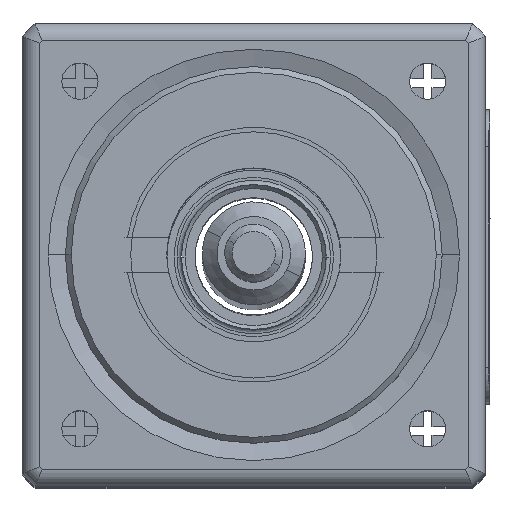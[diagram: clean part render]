
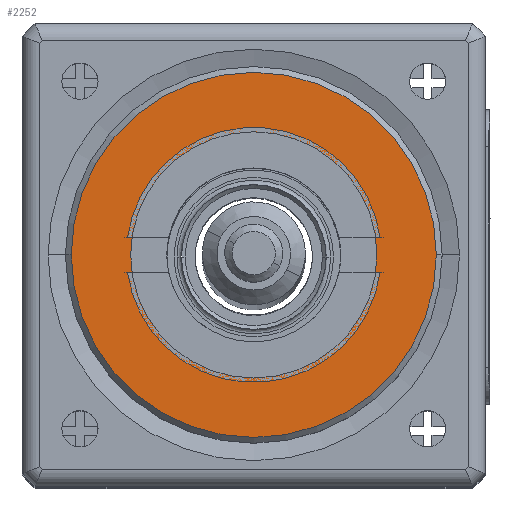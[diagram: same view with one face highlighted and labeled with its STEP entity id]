
A CAD part, top view. The second image highlights one B-rep face of the part: STEP entity #2252.
In plain terms, the highlighted planar face has unit normal (0, 0, 1).
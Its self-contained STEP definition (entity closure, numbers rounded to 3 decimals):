
#101 = VERTEX_POINT ( 'NONE', #7551 ) ;
#591 = PLANE ( 'NONE',  #3336 ) ;
#687 = DIRECTION ( 'NONE',  ( 1., 0., 0. ) ) ;
#738 = VERTEX_POINT ( 'NONE', #9557 ) ;
#1841 = ORIENTED_EDGE ( 'NONE', *, *, #7918, .F. ) ;
#2022 = CIRCLE ( 'NONE', #8826, 6.3 ) ;
#2171 = ORIENTED_EDGE ( 'NONE', *, *, #8044, .F. ) ;
#2252 = ADVANCED_FACE ( 'NONE', ( #9437, #2463 ), #591, .T. ) ;
#2326 = EDGE_LOOP ( 'NONE', ( #7485, #2599 ) ) ;
#2344 = CARTESIAN_POINT ( 'NONE',  ( 5.997, 10.347, 45.902 ) ) ;
#2463 = FACE_BOUND ( 'NONE', #12154, .T. ) ;
#2599 = ORIENTED_EDGE ( 'NONE', *, *, #4922, .T. ) ;
#2786 = CARTESIAN_POINT ( 'NONE',  ( 10.247, 10.347, 45.902 ) ) ;
#3108 = VERTEX_POINT ( 'NONE', #2344 ) ;
#3336 = AXIS2_PLACEMENT_3D ( 'NONE', #5433, #9312, #8287 ) ;
#4442 = CARTESIAN_POINT ( 'NONE',  ( 10.247, 10.347, 45.902 ) ) ;
#4610 = DIRECTION ( 'NONE',  ( 1., 0., 0. ) ) ;
#4777 = DIRECTION ( 'NONE',  ( 1., 0., 0. ) ) ;
#4922 = EDGE_CURVE ( 'NONE', #101, #738, #2022, .T. ) ;
#5433 = CARTESIAN_POINT ( 'NONE',  ( 10.247, 10.347, 45.902 ) ) ;
#6006 = CARTESIAN_POINT ( 'NONE',  ( 10.247, 10.347, 45.902 ) ) ;
#6140 = AXIS2_PLACEMENT_3D ( 'NONE', #9668, #8634, #687 ) ;
#6678 = DIRECTION ( 'NONE',  ( 0., 0., 1. ) ) ;
#7178 = CIRCLE ( 'NONE', #6140, 4.25 ) ;
#7241 = CARTESIAN_POINT ( 'NONE',  ( 14.497, 10.347, 45.902 ) ) ;
#7485 = ORIENTED_EDGE ( 'NONE', *, *, #11486, .T. ) ;
#7551 = CARTESIAN_POINT ( 'NONE',  ( 16.547, 10.347, 45.902 ) ) ;
#7738 = DIRECTION ( 'NONE',  ( 0., 0., 1. ) ) ;
#7799 = CIRCLE ( 'NONE', #11511, 4.25 ) ;
#7918 = EDGE_CURVE ( 'NONE', #3108, #8901, #7799, .T. ) ;
#8044 = EDGE_CURVE ( 'NONE', #8901, #3108, #7178, .T. ) ;
#8287 = DIRECTION ( 'NONE',  ( 1., 0., 0. ) ) ;
#8634 = DIRECTION ( 'NONE',  ( 0., 0., 1. ) ) ;
#8826 = AXIS2_PLACEMENT_3D ( 'NONE', #6006, #7738, #4777 ) ;
#8901 = VERTEX_POINT ( 'NONE', #7241 ) ;
#9312 = DIRECTION ( 'NONE',  ( 0., 0., 1. ) ) ;
#9437 = FACE_OUTER_BOUND ( 'NONE', #2326, .T. ) ;
#9557 = CARTESIAN_POINT ( 'NONE',  ( 3.947, 10.347, 45.902 ) ) ;
#9668 = CARTESIAN_POINT ( 'NONE',  ( 10.247, 10.347, 45.902 ) ) ;
#10192 = DIRECTION ( 'NONE',  ( 0., 0., 1. ) ) ;
#11486 = EDGE_CURVE ( 'NONE', #738, #101, #11841, .T. ) ;
#11511 = AXIS2_PLACEMENT_3D ( 'NONE', #4442, #10192, #12187 ) ;
#11841 = CIRCLE ( 'NONE', #11853, 6.3 ) ;
#11853 = AXIS2_PLACEMENT_3D ( 'NONE', #2786, #6678, #4610 ) ;
#12154 = EDGE_LOOP ( 'NONE', ( #2171, #1841 ) ) ;
#12187 = DIRECTION ( 'NONE',  ( 1., 0., 0. ) ) ;
